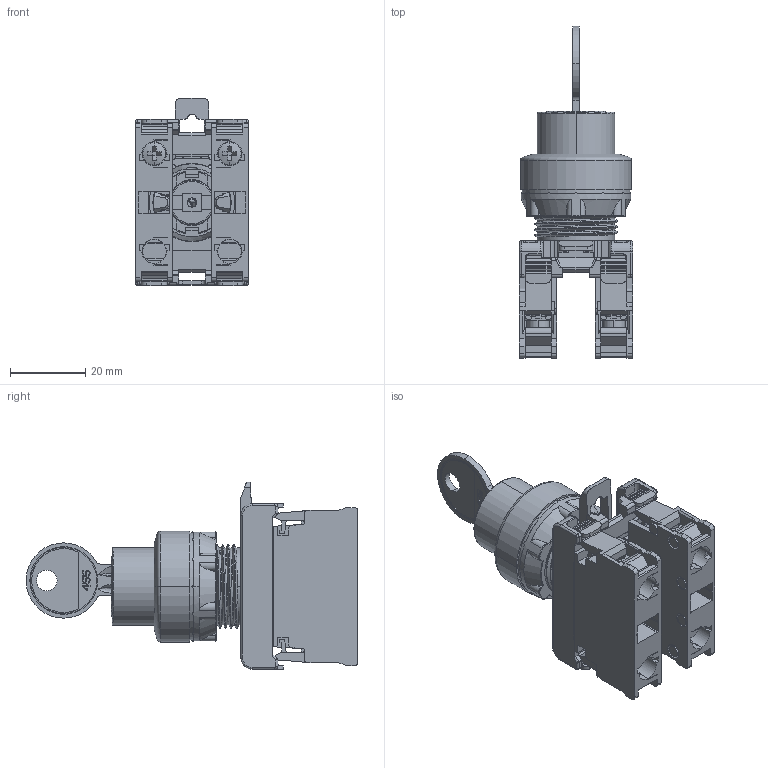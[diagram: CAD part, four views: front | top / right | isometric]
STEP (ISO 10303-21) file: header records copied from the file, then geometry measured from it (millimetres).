
FILE_DESCRIPTION (( 'STEP AP203' ), '1' );
FILE_NAME ('TGLA1-Y.stp', '2026-05-15T09:05:59', ( '' ), ( '' ), 'SwSTEP 2.0', 'SolidWorks 2024', '' );
FILE_SCHEMA (( 'CONFIG_CONTROL_DESIGN' ));
Products named in the file (1): TGLA1-Y
Bounding box: 30.1 x 88.2 x 49.8 mm (x, y, z)
Volume: 23437.9 mm3; surface area: 34467.7 mm2
Topology: 4 solids, 8 shells, 2732 faces, 7818 edges, 5078 vertices
Faces by surface type: plane 1762, cylinder 721, cone 111, bspline 69, torus 61, sphere 8
Entity records: 99500 total; most frequent: CARTESIAN_POINT 27646, ORIENTED_EDGE 15608, DIRECTION 14436, EDGE_CURVE 7804, LINE 5416, VECTOR 5416, VERTEX_POINT 5078, AXIS2_PLACEMENT_3D 4510
